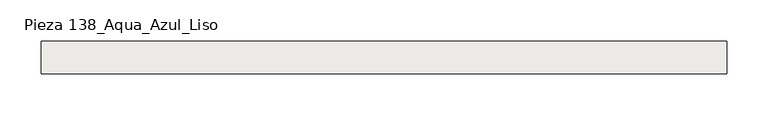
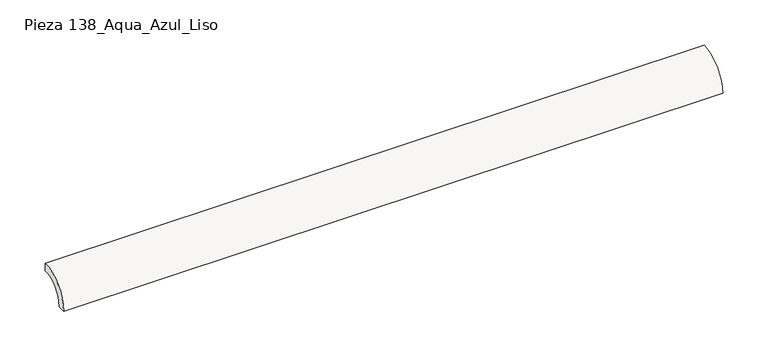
"""IFC4 building model written with IfcOpenShell, lengths in millimetres: slab geometry, ROSA GRES_138 : Pieza 138_Aqua_Azul_Liso."""

import ifcopenshell
import ifcopenshell.guid

model = None  # the IFC model being written
_history = None  # IfcOwnerHistory: only IFC2X3 demands one
_inside = {}  # id of a spatial element -> (the spatial element, [elements in it])
_under = {}  # id of a project, library or spatial element -> (it, [spatial elements below it])
_declared = {}  # id of a project -> (the project, [libraries it declares])
_typed = {}  # id of a type object -> (the type object, [elements of that type])
_made_of = {}  # id of a material, layer set ... -> (it, [elements and type objects made of it])


def new_model(schema):
    """Start an empty IFC model of exactly this schema.

    Asked for "IFC4X3", IfcOpenShell would pick the latest addendum, in which some entities
    have other attributes; the version numbers below select the first issue.
    IFC2X3 requires an IfcOwnerHistory on every rooted entity: one is made here for all.
    """
    global model, _history
    if schema == "IFC4X3":
        model = ifcopenshell.file(schema_version=(4, 3, 0, 0))
    else:
        model = ifcopenshell.file(schema=schema)
    _inside.clear()
    _under.clear()
    _declared.clear()
    _typed.clear()
    _made_of.clear()
    _history = None
    if model.schema == "IFC2X3":
        org = make("IfcOrganization", Name="unknown")
        user = make(
            "IfcPersonAndOrganization",
            ThePerson=make("IfcPerson", FamilyName="unknown"),
            TheOrganization=org,
        )
        app = make(
            "IfcApplication",
            ApplicationDeveloper=org,
            Version="unknown",
            ApplicationFullName="unknown",
            ApplicationIdentifier="unknown",
        )
        _history = make(
            "IfcOwnerHistory",
            OwningUser=user,
            OwningApplication=app,
            ChangeAction="ADDED",
            CreationDate=0,
        )
    return model


def make(cls, **values):
    """One entity of the class cls with the attributes given. An attribute that is None is left unset."""
    return model.create_entity(
        cls, **{name: value for name, value in values.items() if value is not None}
    )


def rooted(cls, **values):
    """An entity with a GlobalId (a new one), such as an element, a storey or a relation."""
    return make(cls, GlobalId=ifcopenshell.guid.new(), OwnerHistory=_history, **values)


def si_unit(unit_type, name, prefix=None):
    """IfcSIUnit, for example si_unit("LENGTHUNIT", "METRE", prefix="MILLI")."""
    return make("IfcSIUnit", UnitType=unit_type, Prefix=prefix, Name=name)


def assignment(units):
    """IfcUnitAssignment: the units of a project."""
    return None if units is None else make("IfcUnitAssignment", Units=units)


def point(xyz):
    """IfcCartesianPoint."""
    return None if xyz is None else make("IfcCartesianPoint", Coordinates=xyz)


def direction(xyz):
    """IfcDirection."""
    return None if xyz is None else make("IfcDirection", DirectionRatios=xyz)


def frame(location, z_axis=None, x_axis=None):
    """IfcAxis2Placement3D, a coordinate frame: its origin and axes. An axis left out is left unset."""
    return make(
        "IfcAxis2Placement3D",
        Location=point(location),
        Axis=direction(z_axis),
        RefDirection=direction(x_axis),
    )


def frame_2d(location, x_axis=None):
    """IfcAxis2Placement2D, a coordinate frame in the plane: its origin and x axis."""
    return make(
        "IfcAxis2Placement2D", Location=point(location), RefDirection=direction(x_axis)
    )


def origin():
    """The frame at (0, 0, 0) with its axes left unset."""
    return frame((0.0, 0.0, 0.0))


def origin_2d():
    """The frame at (0, 0) in the plane with its x axis left unset."""
    return frame_2d((0.0, 0.0))


def place(relative_to, where):
    """IfcLocalPlacement: puts the frame where relative to a parent placement (None: the world)."""
    return make(
        "IfcLocalPlacement", PlacementRelTo=relative_to, RelativePlacement=where
    )


def context(
    kind, dimensions, precision=None, world=None, true_north=None, identifier=None
):
    """IfcGeometricRepresentationContext, for example the 3D "Model" context."""
    return make(
        "IfcGeometricRepresentationContext",
        ContextIdentifier=identifier,
        ContextType=kind,
        CoordinateSpaceDimension=dimensions,
        Precision=precision,
        WorldCoordinateSystem=world,
        TrueNorth=true_north,
    )


def project(units=None, contexts=None):
    """IfcProject with its units and contexts."""
    return rooted(
        "IfcProject",
        Name="project",
        RepresentationContexts=contexts,
        UnitsInContext=assignment(units),
    )


def spatial(cls, under=None, at=None, **own):
    """A site, building, storey or space (cls), placed at a placement, below another one or the project."""
    s = rooted(cls, ObjectPlacement=at, **own)
    if under is not None:
        _under.setdefault(under.id(), (under, []))[1].append(s)
    return s


def polyline(points):
    """IfcPolyline through the points."""
    return make("IfcPolyline", Points=[point(p) for p in points])


def circle_curve(where, radius):
    """IfcCircle in the frame where."""
    return make("IfcCircle", Position=where, Radius=radius)


def trimmed(basis, trim1, trim2, sense, master):
    """IfcTrimmedCurve: the piece of a basis curve between two trims."""
    return make(
        "IfcTrimmedCurve",
        BasisCurve=basis,
        Trim1=trim1,
        Trim2=trim2,
        SenseAgreement=sense,
        MasterRepresentation=master,
    )


def segment(curve, same_sense, transition):
    """IfcCompositeCurveSegment."""
    return make(
        "IfcCompositeCurveSegment",
        Transition=transition,
        SameSense=same_sense,
        ParentCurve=curve,
    )


def composite_curve(segments, self_intersect=None):
    """IfcCompositeCurve: segments joined end to end."""
    return make("IfcCompositeCurve", Segments=segments, SelfIntersect=self_intersect)


def outline(outer, holes=None, kind="AREA"):
    """IfcArbitraryClosedProfileDef: a profile drawn as a closed curve; with holes, ...WithVoids."""
    if holes is None:
        return make("IfcArbitraryClosedProfileDef", ProfileType=kind, OuterCurve=outer)
    return make(
        "IfcArbitraryProfileDefWithVoids",
        ProfileType=kind,
        OuterCurve=outer,
        InnerCurves=holes,
    )


def extrude(swept, where, along, depth):
    """IfcExtrudedAreaSolid: the profile swept, set in the frame where, extruded along a direction by depth."""
    return make(
        "IfcExtrudedAreaSolid",
        SweptArea=swept,
        Position=where,
        ExtrudedDirection=direction(along),
        Depth=depth,
    )


def shape(context_of_items, identifier, shape_type, items):
    """IfcShapeRepresentation: the items that make up one representation, for example the "Body"."""
    return make(
        "IfcShapeRepresentation",
        ContextOfItems=context_of_items,
        RepresentationIdentifier=identifier,
        RepresentationType=shape_type,
        Items=items,
    )


def source(mapping_origin, context_of_items, identifier, shape_type, items):
    """IfcRepresentationMap: a shape defined once, which mapped items show again and again."""
    return make(
        "IfcRepresentationMap",
        MappingOrigin=mapping_origin,
        MappedRepresentation=shape(context_of_items, identifier, shape_type, items),
    )


def transform(
    local_origin,
    x_axis=None,
    y_axis=None,
    z_axis=None,
    scale=None,
    scale2=None,
    scale3=None,
    uniform=True,
):
    """IfcCartesianTransformationOperator3D, or its non-uniform kind. x_axis, y_axis, z_axis: its Axis1, 2, 3."""
    if uniform:
        return make(
            "IfcCartesianTransformationOperator3D",
            Axis1=direction(x_axis),
            Axis2=direction(y_axis),
            LocalOrigin=point(local_origin),
            Scale=scale,
            Axis3=direction(z_axis),
        )
    return make(
        "IfcCartesianTransformationOperator3DnonUniform",
        Axis1=direction(x_axis),
        Axis2=direction(y_axis),
        LocalOrigin=point(local_origin),
        Scale=scale,
        Axis3=direction(z_axis),
        Scale2=scale2,
        Scale3=scale3,
    )


def mapped(mapping_source, mapping_target):
    """IfcMappedItem: shows the shape of a source again, moved by a transform."""
    return make(
        "IfcMappedItem", MappingSource=mapping_source, MappingTarget=mapping_target
    )


def made_of(thing, what):
    """Note that an element or type object is made of a material, layer set ...; save() writes the relation."""
    if what is not None:
        _made_of.setdefault(what.id(), (what, []))[1].append(thing)
    return thing


def element(
    cls,
    number,
    at=None,
    inside=None,
    cuts=None,
    type_object=None,
    material=None,
    context=None,
    identifier="Body",
    shape_type=None,
    held_by="IfcProductDefinitionShape",
    body=None,
    shapes=None,
    **own,
):
    """One element of the class cls, such as IfcWall. Its Tag is "e" and its number.

    at: its placement. inside: the storey or other place that contains it. cuts: it is an
    opening in that element (IfcRelVoidsElement). A single representation is given by context,
    identifier, shape_type and body (its items); several are given by shapes. held_by: the class
    of the entity that holds the representations. save() writes the other relations.
    """
    e = rooted(cls, Tag="e%d" % number, ObjectPlacement=at, **own)
    if body is not None:
        shapes = [shape(context, identifier, shape_type, body)]
    if shapes is not None:
        e.Representation = make(held_by, Representations=shapes)
    if inside is not None:
        _inside.setdefault(inside.id(), (inside, []))[1].append(e)
    if cuts is not None:
        rooted(
            "IfcRelVoidsElement", RelatingBuildingElement=cuts, RelatedOpeningElement=e
        )
    if type_object is not None:
        _typed.setdefault(type_object.id(), (type_object, []))[1].append(e)
    return made_of(e, material)


def aggregate(whole, parts):
    """IfcRelAggregates: a whole, such as a stair, and the parts it consists of."""
    return rooted("IfcRelAggregates", RelatingObject=whole, RelatedObjects=parts)


def save(model, path):
    """Write the relations noted so far, then the file.

    IfcRelAggregates (storeys below a building ...), IfcRelContainedInSpatialStructure (elements
    in a storey), IfcRelDefinesByType, IfcRelAssociatesMaterial and IfcRelDeclares: one each for
    every whole, place, type object, material and project.
    """
    for whole, parts in _under.values():
        aggregate(whole, parts)
    for where, things in _inside.values():
        rooted(
            "IfcRelContainedInSpatialStructure",
            RelatedElements=things,
            RelatingStructure=where,
        )
    for kind, things in _typed.values():
        rooted("IfcRelDefinesByType", RelatedObjects=things, RelatingType=kind)
    for what, things in _made_of.values():
        rooted("IfcRelAssociatesMaterial", RelatedObjects=things, RelatingMaterial=what)
    for by, libraries in _declared.values():
        rooted("IfcRelDeclares", RelatingContext=by, RelatedDefinitions=libraries)
    model.write(path)


def pieza_138_aqua_azul_liso_272dbb81(model_context):
    return source(origin(), model_context, "Body", "SweptSolid", [
        extrude(outline(composite_curve([segment(polyline([(0.0, 40.0), (0.0, 30.0265886)]), True, "CONTINUOUS"), segment(trimmed(circle_curve(frame_2d((-0.0044453, 0.0044453)), 30.0221435), [point((0.0, 30.0265886))], [point((-30.0265886, 0.0))], True, "CARTESIAN"), True, "CONTINUOUS"), segment(polyline([(-30.0265886, 0.0), (-40.0, 0.0)]), True, "CONTINUOUS"), segment(trimmed(circle_curve(origin_2d(), 40.0), [point((-40.0, 0.0))], [point((0.0, 40.0))], False, "CARTESIAN"), True, "CONTINUOUS")], self_intersect=False)), frame((0.0, 0.0, 0.0), z_axis=(1.0, 0.0, 0.0), x_axis=(0.0, 1.0, 0.0)), (0.0, 0.0, 1.0), 836.5281195),
    ])


if __name__ == "__main__":
    model = new_model("IFC4")
    model_context = context("Model", 3, world=origin())
    ifc_project = project(units=[si_unit("LENGTHUNIT", "METRE", prefix="MILLI")], contexts=[model_context])
    site = spatial("IfcSite", under=ifc_project)
    building = spatial("IfcBuilding", under=site)
    placement = place(None, origin())
    pieza_138_aqua_azul_liso_shape = pieza_138_aqua_azul_liso_272dbb81(model_context)
    element("IfcSlab", 1, ObjectType="ROSA GRES_138 : Pieza 138_Aqua_Azul_Liso", at=placement, inside=building, context=model_context, shape_type="MappedRepresentation", body=[
        mapped(pieza_138_aqua_azul_liso_shape, transform((0.0, 0.0, 0.0), x_axis=(1.0, 0.0, 0.0), y_axis=(0.0, 1.0, 0.0), z_axis=(0.0, 0.0, 1.0))),
    ])
    save(model, "model.ifc")
